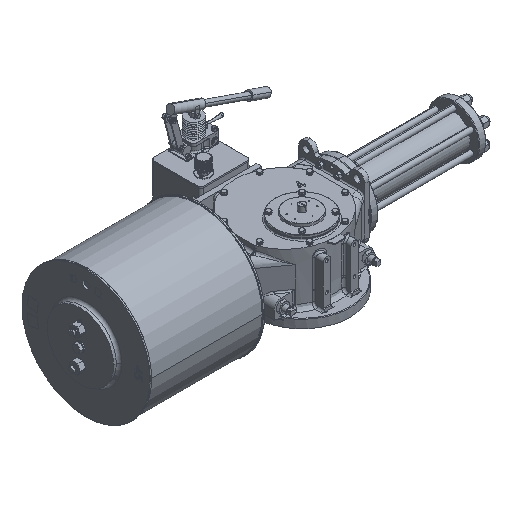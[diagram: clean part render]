
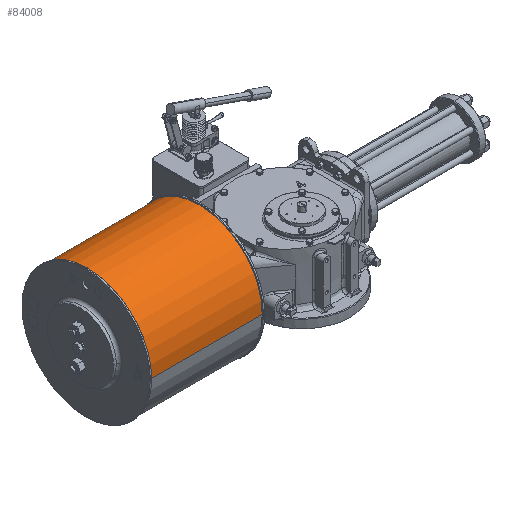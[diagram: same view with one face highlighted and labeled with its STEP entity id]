
A CAD part, isometric view. The second image highlights one B-rep face of the part: STEP entity #84008.
In plain terms, the highlighted cylindrical face has radius 228.6 mm (diameter 457.2 mm), a partial arc.
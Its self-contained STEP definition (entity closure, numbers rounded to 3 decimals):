
#3376 = DIRECTION ( 'NONE',  ( 1., 0., 0. ) ) ;
#6065 = ORIENTED_EDGE ( 'NONE', *, *, #41017, .T. ) ;
#6702 = FACE_OUTER_BOUND ( 'NONE', #45633, .T. ) ;
#14923 = CARTESIAN_POINT ( 'NONE',  ( -264.5, -120.6, 82.5 ) ) ;
#17938 = EDGE_CURVE ( 'NONE', #58322, #17946, #89248, .T. ) ;
#17946 = VERTEX_POINT ( 'NONE', #59998 ) ;
#18042 = LINE ( 'NONE', #68239, #85129 ) ;
#18442 = VECTOR ( 'NONE', #87383, 1000. ) ;
#19738 = DIRECTION ( 'NONE',  ( 0., 1., 0. ) ) ;
#19745 = CARTESIAN_POINT ( 'NONE',  ( -666.5, 336.6, 82.5 ) ) ;
#23377 = EDGE_CURVE ( 'NONE', #78844, #58322, #55981, .T. ) ;
#24175 = AXIS2_PLACEMENT_3D ( 'NONE', #68823, #61745, #82502 ) ;
#24428 = CARTESIAN_POINT ( 'NONE',  ( -1313.078, 336.6, 82.5 ) ) ;
#29449 = CARTESIAN_POINT ( 'NONE',  ( -1313.078, 108., 82.5 ) ) ;
#33839 = EDGE_CURVE ( 'NONE', #44383, #17946, #38735, .T. ) ;
#35607 = DIRECTION ( 'NONE',  ( 0., 1., 0. ) ) ;
#37190 = AXIS2_PLACEMENT_3D ( 'NONE', #85471, #48605, #19738 ) ;
#38735 = CIRCLE ( 'NONE', #37190, 228.6 ) ;
#41017 = EDGE_CURVE ( 'NONE', #78844, #44383, #18042, .T. ) ;
#44383 = VERTEX_POINT ( 'NONE', #14923 ) ;
#45633 = EDGE_LOOP ( 'NONE', ( #93204, #6065, #84834, #89388 ) ) ;
#48605 = DIRECTION ( 'NONE',  ( -1., 0., 0. ) ) ;
#55981 = CIRCLE ( 'NONE', #24175, 228.6 ) ;
#56479 = AXIS2_PLACEMENT_3D ( 'NONE', #29449, #57867, #35607 ) ;
#57867 = DIRECTION ( 'NONE',  ( 1., 0., 0. ) ) ;
#58322 = VERTEX_POINT ( 'NONE', #19745 ) ;
#59998 = CARTESIAN_POINT ( 'NONE',  ( -264.5, 336.6, 82.5 ) ) ;
#61745 = DIRECTION ( 'NONE',  ( -1., 0., 0. ) ) ;
#64498 = CYLINDRICAL_SURFACE ( 'NONE', #56479, 228.6 ) ;
#68239 = CARTESIAN_POINT ( 'NONE',  ( -1313.078, -120.6, 82.5 ) ) ;
#68823 = CARTESIAN_POINT ( 'NONE',  ( -666.5, 108., 82.5 ) ) ;
#78844 = VERTEX_POINT ( 'NONE', #79137 ) ;
#79137 = CARTESIAN_POINT ( 'NONE',  ( -666.5, -120.6, 82.5 ) ) ;
#82502 = DIRECTION ( 'NONE',  ( 0., 0., 1. ) ) ;
#84008 = ADVANCED_FACE ( 'NONE', ( #6702 ), #64498, .T. ) ;
#84834 = ORIENTED_EDGE ( 'NONE', *, *, #33839, .T. ) ;
#85129 = VECTOR ( 'NONE', #3376, 1000. ) ;
#85471 = CARTESIAN_POINT ( 'NONE',  ( -264.5, 108., 82.5 ) ) ;
#87383 = DIRECTION ( 'NONE',  ( 1., 0., 0. ) ) ;
#89248 = LINE ( 'NONE', #24428, #18442 ) ;
#89388 = ORIENTED_EDGE ( 'NONE', *, *, #17938, .F. ) ;
#93204 = ORIENTED_EDGE ( 'NONE', *, *, #23377, .F. ) ;
